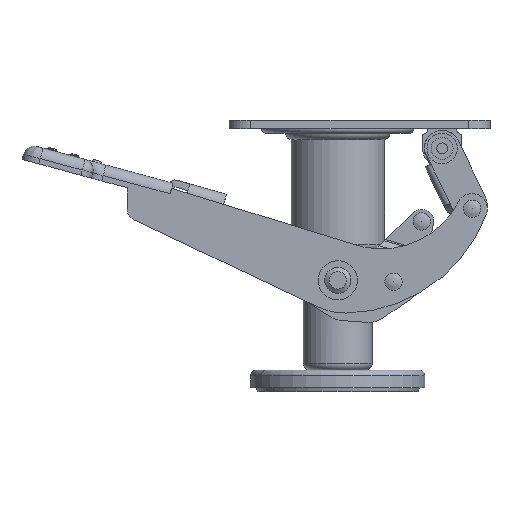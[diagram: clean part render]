
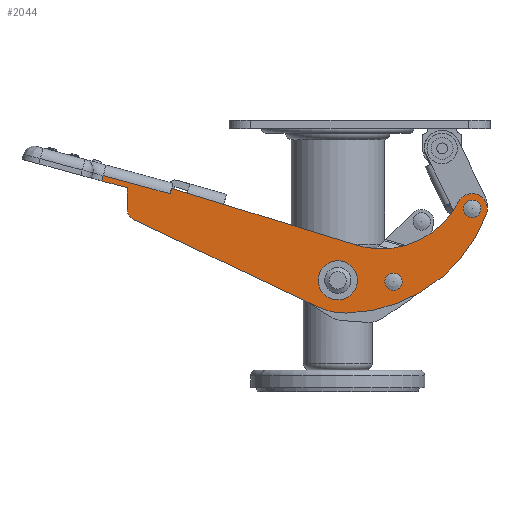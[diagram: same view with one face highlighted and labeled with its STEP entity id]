
A CAD part, left-side view. The second image highlights one B-rep face of the part: STEP entity #2044.
In plain terms, the highlighted planar face has unit normal (-1, 0, 0).
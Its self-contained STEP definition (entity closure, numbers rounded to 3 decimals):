
#2044 = ADVANCED_FACE( '', ( #4538, #4539, #4540 ), #4541, .T. );
#4538 = FACE_BOUND( '', #8855, .T. );
#4539 = FACE_OUTER_BOUND( '', #8856, .T. );
#4540 = FACE_BOUND( '', #8857, .T. );
#4541 = PLANE( '', #8858 );
#8855 = EDGE_LOOP( '', ( #14668 ) );
#8856 = EDGE_LOOP( '', ( #14669, #14670, #14671, #14672, #14673, #14674, #14675, #14676, #14677, #14678, #14679, #14680 ) );
#8857 = EDGE_LOOP( '', ( #14681 ) );
#8858 = AXIS2_PLACEMENT_3D( '', #14682, #14683, #14684 );
#14668 = ORIENTED_EDGE( '', *, *, #19643, .F. );
#14669 = ORIENTED_EDGE( '', *, *, #19169, .F. );
#14670 = ORIENTED_EDGE( '', *, *, #19029, .F. );
#14671 = ORIENTED_EDGE( '', *, *, #20595, .F. );
#14672 = ORIENTED_EDGE( '', *, *, #20337, .F. );
#14673 = ORIENTED_EDGE( '', *, *, #19085, .F. );
#14674 = ORIENTED_EDGE( '', *, *, #18706, .F. );
#14675 = ORIENTED_EDGE( '', *, *, #20596, .F. );
#14676 = ORIENTED_EDGE( '', *, *, #20597, .F. );
#14677 = ORIENTED_EDGE( '', *, *, #20598, .F. );
#14678 = ORIENTED_EDGE( '', *, *, #18561, .F. );
#14679 = ORIENTED_EDGE( '', *, *, #20599, .F. );
#14680 = ORIENTED_EDGE( '', *, *, #18525, .F. );
#14681 = ORIENTED_EDGE( '', *, *, #20046, .F. );
#14682 = CARTESIAN_POINT( '', ( -29.5, -464.989, -398.454 ) );
#14683 = DIRECTION( '', ( -1., 0., 0. ) );
#14684 = DIRECTION( '', ( 0., 0.965, 0.261 ) );
#18525 = EDGE_CURVE( '', #21799, #21800, #21801, .F. );
#18561 = EDGE_CURVE( '', #21866, #21859, #21868, .F. );
#18706 = EDGE_CURVE( '', #22122, #22124, #22125, .T. );
#19029 = EDGE_CURVE( '', #22670, #22672, #22673, .T. );
#19085 = EDGE_CURVE( '', #22124, #22771, #22772, .T. );
#19169 = EDGE_CURVE( '', #22672, #21799, #22904, .F. );
#19643 = EDGE_CURVE( '', #23662, #23662, #23663, .F. );
#20046 = EDGE_CURVE( '', #24262, #24262, #24263, .F. );
#20337 = EDGE_CURVE( '', #22771, #24669, #24670, .T. );
#20595 = EDGE_CURVE( '', #24669, #22670, #25027, .F. );
#20596 = EDGE_CURVE( '', #25028, #22122, #25029, .F. );
#20597 = EDGE_CURVE( '', #25030, #25028, #25031, .F. );
#20598 = EDGE_CURVE( '', #21859, #25030, #25032, .T. );
#20599 = EDGE_CURVE( '', #21800, #21866, #25033, .F. );
#21799 = VERTEX_POINT( '', #26539 );
#21800 = VERTEX_POINT( '', #26540 );
#21801 = LINE( '', #26541, #26542 );
#21859 = VERTEX_POINT( '', #26617 );
#21866 = VERTEX_POINT( '', #26625 );
#21868 = LINE( '', #26627, #26628 );
#22122 = VERTEX_POINT( '', #27125 );
#22124 = VERTEX_POINT( '', #27128 );
#22125 = CIRCLE( '', #27129, 7. );
#22670 = VERTEX_POINT( '', #27928 );
#22672 = VERTEX_POINT( '', #27931 );
#22673 = CIRCLE( '', #27932, 5. );
#22771 = VERTEX_POINT( '', #28059 );
#22772 = CIRCLE( '', #28060, 70. );
#22904 = LINE( '', #28295, #28296 );
#23662 = VERTEX_POINT( '', #29555 );
#23663 = CIRCLE( '', #29556, 3.5 );
#24262 = VERTEX_POINT( '', #30561 );
#24263 = CIRCLE( '', #30562, 3.5 );
#24669 = VERTEX_POINT( '', #31219 );
#24670 = CIRCLE( '', #31220, 30. );
#25027 = LINE( '', #31972, #31973 );
#25028 = VERTEX_POINT( '', #31974 );
#25029 = CIRCLE( '', #31975, 40. );
#25030 = VERTEX_POINT( '', #31976 );
#25031 = LINE( '', #31977, #31978 );
#25032 = LINE( '', #31979, #31980 );
#25033 = LINE( '', #31981, #31982 );
#26539 = CARTESIAN_POINT( '', ( -29.5, 96.772, -31.144 ) );
#26540 = CARTESIAN_POINT( '', ( -29.5, 108.577, -27.956 ) );
#26541 = CARTESIAN_POINT( '', ( -29.5, 145.262, -18.049 ) );
#26542 = VECTOR( '', #33725, 1000. );
#26617 = CARTESIAN_POINT( '', ( -29.5, 77.112, -33.864 ) );
#26625 = CARTESIAN_POINT( '', ( -29.5, 107.925, -25.543 ) );
#26627 = CARTESIAN_POINT( '', ( -29.5, 77.112, -33.864 ) );
#26628 = VECTOR( '', #33789, 1000. );
#27125 = CARTESIAN_POINT( '', ( -29.5, -55.549, -37.568 ) );
#27128 = CARTESIAN_POINT( '', ( -29.5, -68.331, -43.218 ) );
#27129 = AXIS2_PLACEMENT_3D( '', #34002, #34003, #34004 );
#27928 = CARTESIAN_POINT( '', ( -29.5, 93.916, -45.728 ) );
#27931 = CARTESIAN_POINT( '', ( -29.5, 96.772, -41.211 ) );
#27932 = AXIS2_PLACEMENT_3D( '', #34458, #34459, #34460 );
#28059 = CARTESIAN_POINT( '', ( -29.5, -4.083, -88.755 ) );
#28060 = AXIS2_PLACEMENT_3D( '', #34544, #34545, #34546 );
#28295 = CARTESIAN_POINT( '', ( -29.5, 96.772, -25.115 ) );
#28296 = VECTOR( '', #34662, 1000. );
#29555 = CARTESIAN_POINT( '', ( -29.5, -59.695, -43.59 ) );
#29556 = AXIS2_PLACEMENT_3D( '', #35251, #35252, #35253 );
#30561 = CARTESIAN_POINT( '', ( -29.5, -23.549, -77.147 ) );
#30562 = AXIS2_PLACEMENT_3D( '', #35789, #35790, #35791 );
#31219 = CARTESIAN_POINT( '', ( -29.5, 9.356, -85.863 ) );
#31220 = AXIS2_PLACEMENT_3D( '', #36105, #36106, #36107 );
#31972 = CARTESIAN_POINT( '', ( -29.5, 93.916, -45.728 ) );
#31973 = VECTOR( '', #36428, 1000. );
#31974 = CARTESIAN_POINT( '', ( -29.5, -5.793, -56.65 ) );
#31975 = AXIS2_PLACEMENT_3D( '', #36429, #36430, #36431 );
#31976 = CARTESIAN_POINT( '', ( -29.5, 76.438, -31.367 ) );
#31977 = CARTESIAN_POINT( '', ( -29.5, -5.793, -56.65 ) );
#31978 = VECTOR( '', #36432, 1000. );
#31979 = CARTESIAN_POINT( '', ( -29.5, 132.031, -237.219 ) );
#31980 = VECTOR( '', #36433, 1000. );
#31981 = CARTESIAN_POINT( '', ( -29.5, 106.621, -20.716 ) );
#31982 = VECTOR( '', #36434, 1000. );
#33725 = DIRECTION( '', ( 0., -0.965, -0.261 ) );
#33789 = DIRECTION( '', ( 0., 0.965, 0.261 ) );
#34002 = CARTESIAN_POINT( '', ( -29.5, -61.772, -40.773 ) );
#34003 = DIRECTION( '', ( 1., 0., 0. ) );
#34004 = DIRECTION( '', ( 0., 0.593, -0.805 ) );
#34458 = CARTESIAN_POINT( '', ( -29.5, 91.772, -41.211 ) );
#34459 = DIRECTION( '', ( 1., 0., 0. ) );
#34460 = DIRECTION( '', ( 0., 0.593, -0.805 ) );
#34544 = CARTESIAN_POINT( '', ( -29.5, -2.74, -18.768 ) );
#34545 = DIRECTION( '', ( 1., 0., 0. ) );
#34546 = DIRECTION( '', ( 0., 0.593, -0.805 ) );
#34662 = DIRECTION( '', ( 0., 0., -1. ) );
#35251 = CARTESIAN_POINT( '', ( -29.5, -61.772, -40.773 ) );
#35252 = DIRECTION( '', ( 1., 0., 0. ) );
#35253 = DIRECTION( '', ( 0., 0.593, -0.805 ) );
#35789 = CARTESIAN_POINT( '', ( -29.5, -25.626, -74.33 ) );
#35790 = DIRECTION( '', ( 1., 0., 0. ) );
#35791 = DIRECTION( '', ( 0., 0.593, -0.805 ) );
#36105 = CARTESIAN_POINT( '', ( -29.5, -3.507, -58.761 ) );
#36106 = DIRECTION( '', ( 1., 0., 0. ) );
#36107 = DIRECTION( '', ( 0., 0.593, -0.805 ) );
#36428 = DIRECTION( '', ( 0., -0.903, -0.429 ) );
#36429 = CARTESIAN_POINT( '', ( -29.5, -19.988, -19.253 ) );
#36430 = DIRECTION( '', ( 1., 0., 0. ) );
#36431 = DIRECTION( '', ( 0., 0.593, -0.805 ) );
#36432 = DIRECTION( '', ( 0., 0.956, 0.294 ) );
#36433 = DIRECTION( '', ( 0., -0.261, 0.965 ) );
#36434 = DIRECTION( '', ( 0., 0.261, -0.965 ) );
